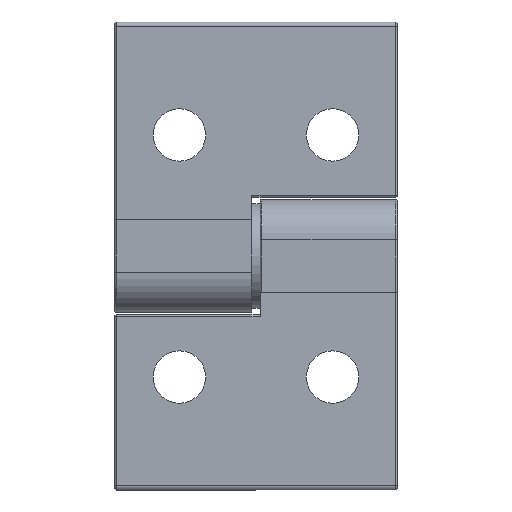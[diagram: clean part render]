
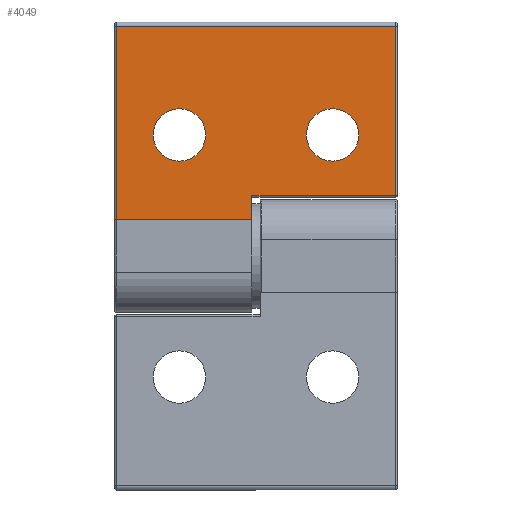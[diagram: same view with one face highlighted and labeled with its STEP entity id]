
A CAD part, front view. The second image highlights one B-rep face of the part: STEP entity #4049.
In plain terms, the highlighted planar face has unit normal (0, -1, 0).
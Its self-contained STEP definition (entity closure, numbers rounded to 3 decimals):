
#25 = CIRCLE ( 'NONE', #6756, 3.25 ) ;
#102 = FACE_OUTER_BOUND ( 'NONE', #6587, .T. ) ;
#105 = DIRECTION ( 'NONE',  ( 0., -1., 0. ) ) ;
#125 = CARTESIAN_POINT ( 'NONE',  ( -9.5, -8., 15. ) ) ;
#318 = CARTESIAN_POINT ( 'NONE',  ( 0., -8., 0. ) ) ;
#474 = EDGE_CURVE ( 'NONE', #1957, #4520, #844, .T. ) ;
#557 = CARTESIAN_POINT ( 'NONE',  ( 17.3, -8., 7.5 ) ) ;
#594 = CIRCLE ( 'NONE', #1474, 3.25 ) ;
#628 = VERTEX_POINT ( 'NONE', #4307 ) ;
#662 = DIRECTION ( 'NONE',  ( 0., 0., -1. ) ) ;
#828 = VERTEX_POINT ( 'NONE', #2830 ) ;
#844 = LINE ( 'NONE', #2554, #3724 ) ;
#855 = EDGE_CURVE ( 'NONE', #4839, #1957, #2126, .T. ) ;
#966 = DIRECTION ( 'NONE',  ( 0., 0., 1. ) ) ;
#1069 = DIRECTION ( 'NONE',  ( -1., 0., 0. ) ) ;
#1094 = AXIS2_PLACEMENT_3D ( 'NONE', #318, #1402, #5147 ) ;
#1108 = ORIENTED_EDGE ( 'NONE', *, *, #5570, .F. ) ;
#1304 = EDGE_CURVE ( 'NONE', #6223, #628, #594, .T. ) ;
#1372 = LINE ( 'NONE', #4367, #2660 ) ;
#1402 = DIRECTION ( 'NONE',  ( 0., 1., 0. ) ) ;
#1474 = AXIS2_PLACEMENT_3D ( 'NONE', #5742, #4072, #2282 ) ;
#1526 = CARTESIAN_POINT ( 'NONE',  ( 0., -8., 28.5 ) ) ;
#1750 = VERTEX_POINT ( 'NONE', #557 ) ;
#1957 = VERTEX_POINT ( 'NONE', #2487 ) ;
#1976 = DIRECTION ( 'NONE',  ( -1., 0., 0. ) ) ;
#2126 = LINE ( 'NONE', #6359, #6191 ) ;
#2139 = VECTOR ( 'NONE', #1069, 1000. ) ;
#2282 = DIRECTION ( 'NONE',  ( 0., 0., -1. ) ) ;
#2299 = EDGE_CURVE ( 'NONE', #828, #3921, #3238, .T. ) ;
#2327 = VERTEX_POINT ( 'NONE', #5126 ) ;
#2385 = ORIENTED_EDGE ( 'NONE', *, *, #474, .F. ) ;
#2414 = ORIENTED_EDGE ( 'NONE', *, *, #2495, .F. ) ;
#2456 = CARTESIAN_POINT ( 'NONE',  ( -9.5, -8., 15. ) ) ;
#2487 = CARTESIAN_POINT ( 'NONE',  ( -0.5, -8., 4.5 ) ) ;
#2495 = EDGE_CURVE ( 'NONE', #4520, #6291, #4897, .T. ) ;
#2554 = CARTESIAN_POINT ( 'NONE',  ( 0., -8., 4.5 ) ) ;
#2603 = CARTESIAN_POINT ( 'NONE',  ( -17.3, -8., 0. ) ) ;
#2660 = VECTOR ( 'NONE', #5448, 1000. ) ;
#2690 = ORIENTED_EDGE ( 'NONE', *, *, #3710, .F. ) ;
#2830 = CARTESIAN_POINT ( 'NONE',  ( -9.5, -8., 18.25 ) ) ;
#2876 = ORIENTED_EDGE ( 'NONE', *, *, #4142, .F. ) ;
#2984 = DIRECTION ( 'NONE',  ( 0., 0., -1. ) ) ;
#3002 = PLANE ( 'NONE',  #1094 ) ;
#3238 = CIRCLE ( 'NONE', #3795, 3.25 ) ;
#3341 = CARTESIAN_POINT ( 'NONE',  ( 9.5, -8., 15. ) ) ;
#3464 = CARTESIAN_POINT ( 'NONE',  ( -0.5, -8., 7.5 ) ) ;
#3497 = CARTESIAN_POINT ( 'NONE',  ( 9.5, -8., 11.75 ) ) ;
#3564 = LINE ( 'NONE', #1526, #6532 ) ;
#3603 = EDGE_LOOP ( 'NONE', ( #2690, #4089 ) ) ;
#3643 = DIRECTION ( 'NONE',  ( 1., 0., 0. ) ) ;
#3710 = EDGE_CURVE ( 'NONE', #3921, #828, #4319, .T. ) ;
#3724 = VECTOR ( 'NONE', #1976, 1000. ) ;
#3795 = AXIS2_PLACEMENT_3D ( 'NONE', #2456, #6159, #2984 ) ;
#3880 = DIRECTION ( 'NONE',  ( 0., 0., -1. ) ) ;
#3900 = DIRECTION ( 'NONE',  ( 0., -1., 0. ) ) ;
#3921 = VERTEX_POINT ( 'NONE', #4564 ) ;
#3941 = ORIENTED_EDGE ( 'NONE', *, *, #4628, .F. ) ;
#4003 = CARTESIAN_POINT ( 'NONE',  ( -17.3, -8., 4.5 ) ) ;
#4049 = ADVANCED_FACE ( 'NONE', ( #102, #5826, #5640 ), #3002, .F. ) ;
#4072 = DIRECTION ( 'NONE',  ( 0., -1., 0. ) ) ;
#4089 = ORIENTED_EDGE ( 'NONE', *, *, #2299, .F. ) ;
#4142 = EDGE_CURVE ( 'NONE', #6291, #2327, #3564, .T. ) ;
#4259 = CARTESIAN_POINT ( 'NONE',  ( 0., -8., 7.5 ) ) ;
#4307 = CARTESIAN_POINT ( 'NONE',  ( 9.5, -8., 18.25 ) ) ;
#4319 = CIRCLE ( 'NONE', #4590, 3.25 ) ;
#4367 = CARTESIAN_POINT ( 'NONE',  ( 17.3, -8., 0. ) ) ;
#4520 = VERTEX_POINT ( 'NONE', #4003 ) ;
#4564 = CARTESIAN_POINT ( 'NONE',  ( -9.5, -8., 11.75 ) ) ;
#4590 = AXIS2_PLACEMENT_3D ( 'NONE', #125, #3900, #662 ) ;
#4628 = EDGE_CURVE ( 'NONE', #2327, #1750, #1372, .T. ) ;
#4783 = ORIENTED_EDGE ( 'NONE', *, *, #5684, .F. ) ;
#4839 = VERTEX_POINT ( 'NONE', #3464 ) ;
#4897 = LINE ( 'NONE', #2603, #6127 ) ;
#4964 = ORIENTED_EDGE ( 'NONE', *, *, #1304, .F. ) ;
#5126 = CARTESIAN_POINT ( 'NONE',  ( 17.3, -8., 28.5 ) ) ;
#5147 = DIRECTION ( 'NONE',  ( 0., 0., 1. ) ) ;
#5188 = EDGE_LOOP ( 'NONE', ( #4964, #4783 ) ) ;
#5448 = DIRECTION ( 'NONE',  ( 0., 0., -1. ) ) ;
#5570 = EDGE_CURVE ( 'NONE', #1750, #4839, #6378, .T. ) ;
#5577 = ORIENTED_EDGE ( 'NONE', *, *, #855, .F. ) ;
#5640 = FACE_BOUND ( 'NONE', #5188, .T. ) ;
#5684 = EDGE_CURVE ( 'NONE', #628, #6223, #25, .T. ) ;
#5742 = CARTESIAN_POINT ( 'NONE',  ( 9.5, -8., 15. ) ) ;
#5826 = FACE_BOUND ( 'NONE', #3603, .T. ) ;
#6127 = VECTOR ( 'NONE', #966, 1000. ) ;
#6159 = DIRECTION ( 'NONE',  ( 0., -1., 0. ) ) ;
#6191 = VECTOR ( 'NONE', #6910, 1000. ) ;
#6223 = VERTEX_POINT ( 'NONE', #3497 ) ;
#6291 = VERTEX_POINT ( 'NONE', #6878 ) ;
#6359 = CARTESIAN_POINT ( 'NONE',  ( -0.5, -8., 0. ) ) ;
#6378 = LINE ( 'NONE', #4259, #2139 ) ;
#6532 = VECTOR ( 'NONE', #3643, 1000. ) ;
#6587 = EDGE_LOOP ( 'NONE', ( #2414, #2385, #5577, #1108, #3941, #2876 ) ) ;
#6756 = AXIS2_PLACEMENT_3D ( 'NONE', #3341, #105, #3880 ) ;
#6878 = CARTESIAN_POINT ( 'NONE',  ( -17.3, -8., 28.5 ) ) ;
#6910 = DIRECTION ( 'NONE',  ( 0., 0., -1. ) ) ;
